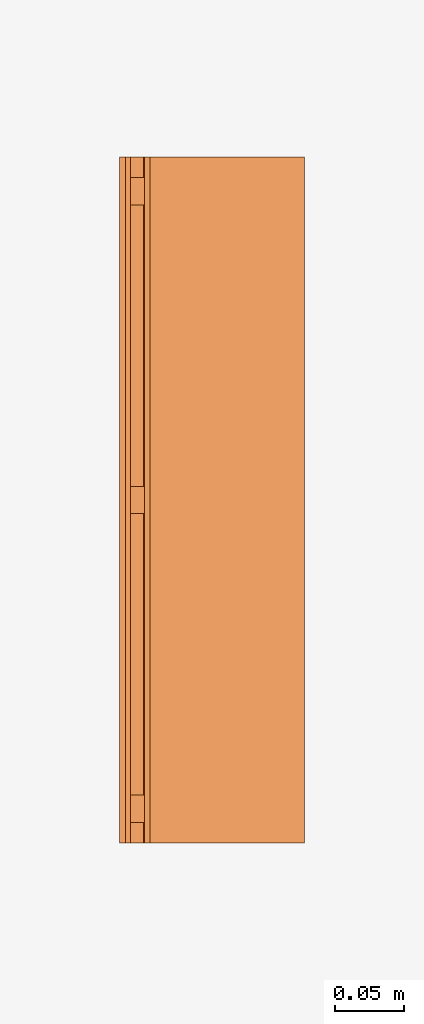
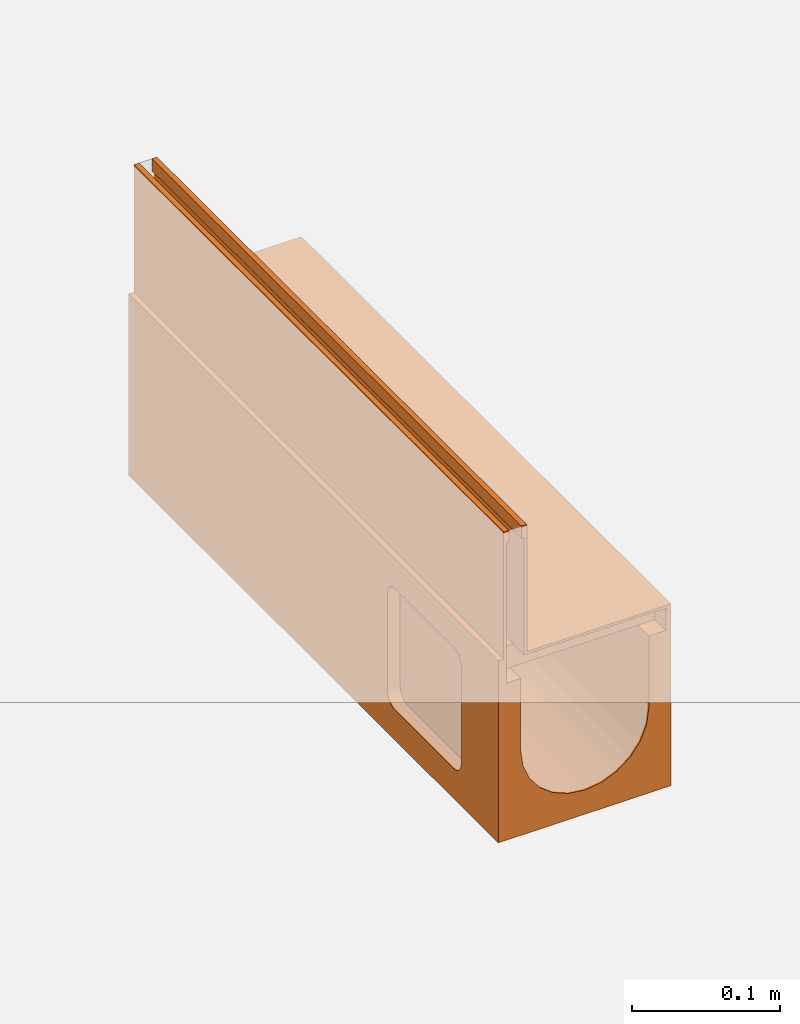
# One storey, part 2 of 2: 1 proxy.
"""IFC2X3 building model written with IfcOpenShell, lengths in millimetres."""

from ifc_helpers import new_model, entity, si_unit, converted_unit, direction, frame, origin, place, context, subcontext, project, spatial, faceted_brep, source, transform, mapped, material, material_list, element, save


model = new_model("IFC2X3")

# Units and contexts
model_context = context("Model", 3, precision=1e-06, world=origin(), true_north=direction((2.0, 6.12303176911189e-17, 1.0)))
context_of_model = context(None, 3, precision=1e-06, world=origin(), true_north=direction((2.0, 6.12303176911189e-17, 1.0)))
body_context = subcontext(model_context, "Body", "Model", "MODEL_VIEW")
ifc_project = project(units=[si_unit("LENGTHUNIT", "METRE", prefix="MILLI"), si_unit("AREAUNIT", "SQUARE_METRE", prefix="MILLI"), si_unit("VOLUMEUNIT", "CUBIC_METRE", prefix="MILLI"), converted_unit("PLANEANGLEUNIT", "DEGREE", entity("IfcRatioMeasure", 0.0174532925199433), si_unit("PLANEANGLEUNIT", "RADIAN"), dimensions=[0, 0, 0, 0, 0, 0, 0]), si_unit("TIMEUNIT", "SECOND")], contexts=[model_context, context_of_model])

# Site, building, storey
site_placement = place(None, origin())
site = spatial("IfcSite", under=ifc_project, at=site_placement, Name="Default", CompositionType="ELEMENT")
building_placement = place(site_placement, origin())
building = spatial("IfcBuilding", under=site, at=building_placement, CompositionType="ELEMENT")
storey_placement = place(building_placement, origin())
storey = spatial("IfcBuildingStorey", under=building, at=storey_placement, Name="Level 1", CompositionType="ELEMENT", Elevation=0.0)

# Proxy
ifc_material_1 = material(Name="Stainless Steel (F)")
ifc_material_2 = material(Name="Vienite® Synthetic Resin Concrete")
ifc_material_list = material_list([ifc_material_1, ifc_material_2])
shared_shape = source(origin(), body_context, "Body", "Brep", [
    faceted_brep([(63.249999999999, 15.0, -107.0), (63.249999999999, 17.0, -109.0), (63.249999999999, 33.0, -109.0), (63.249999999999, 35.0, -107.0), (63.249999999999, 17.0, -123.499999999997), (63.249999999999, 15.0, -125.499999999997), (63.249999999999, 33.0, -123.499999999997), (63.249999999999, 35.0, -125.499999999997), (-61.250000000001, 15.0, -125.499999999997), (-61.250000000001, 17.0, -123.499999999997), (-61.250000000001, 33.0, -123.499999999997), (-61.250000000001, 35.0, -125.499999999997), (-61.250000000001, 17.0, -109.0), (-61.250000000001, 15.0, -107.0), (-61.250000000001, 33.0, -109.0), (-61.250000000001, 35.0, -107.0)], [[[0, 1, 2, 3]], [[4, 1, 0, 5]], [[3, 2, 6, 7]], [[6, 4, 5, 7]], [[8, 9, 10, 11]], [[12, 9, 8, 13]], [[11, 10, 14, 15]], [[14, 12, 13, 15]], [[5, 0, 13, 8]], [[7, 5, 8, 11]], [[3, 7, 11, 15]], [[0, 3, 15, 13]], [[1, 4, 9, 12]], [[14, 2, 1, 12]], [[6, 2, 14, 10]], [[9, 4, 6, 10]]]),
    faceted_brep([(63.2499999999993, 240.0, -107.0), (63.2499999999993, 242.0, -109.0), (63.2499999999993, 258.0, -109.0), (63.2499999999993, 260.0, -107.0), (63.2499999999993, 242.0, -123.499999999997), (63.2499999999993, 240.0, -125.499999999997), (63.2499999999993, 258.0, -123.499999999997), (63.2499999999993, 260.0, -125.499999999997), (-61.2500000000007, 240.0, -125.499999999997), (-61.2500000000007, 242.0, -123.499999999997), (-61.2500000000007, 258.0, -123.499999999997), (-61.2500000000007, 260.0, -125.499999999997), (-61.2500000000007, 242.0, -109.0), (-61.2500000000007, 240.0, -107.0), (-61.2500000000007, 258.0, -109.0), (-61.2500000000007, 260.0, -107.0)], [[[0, 1, 2, 3]], [[4, 1, 0, 5]], [[3, 2, 6, 7]], [[6, 4, 5, 7]], [[8, 9, 10, 11]], [[12, 9, 8, 13]], [[11, 10, 14, 15]], [[14, 12, 13, 15]], [[5, 0, 13, 8]], [[7, 5, 8, 11]], [[3, 7, 11, 15]], [[0, 3, 15, 13]], [[1, 4, 9, 12]], [[2, 1, 12, 14]], [[6, 2, 14, 10]], [[4, 6, 10, 9]]]),
    faceted_brep([(63.2499999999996, 465.0, -107.0), (63.2499999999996, 467.0, -109.0), (63.2499999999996, 483.0, -109.0), (63.2499999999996, 485.0, -107.0), (63.2499999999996, 467.0, -123.499999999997), (63.2499999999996, 465.0, -125.499999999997), (63.2499999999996, 483.0, -123.499999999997), (63.2499999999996, 485.0, -125.499999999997), (-61.2500000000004, 465.0, -125.499999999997), (-61.2500000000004, 467.0, -123.499999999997), (-61.2500000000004, 483.0, -123.499999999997), (-61.2500000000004, 485.0, -125.499999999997), (-61.2500000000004, 467.0, -109.0), (-61.2500000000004, 465.0, -107.0), (-61.2500000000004, 483.0, -109.0), (-61.2500000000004, 485.0, -107.0)], [[[0, 1, 2, 3]], [[4, 1, 0, 5]], [[3, 2, 6, 7]], [[6, 4, 5, 7]], [[8, 9, 10, 11]], [[12, 9, 8, 13]], [[11, 10, 14, 15]], [[14, 12, 13, 15]], [[5, 0, 13, 8]], [[7, 5, 8, 11]], [[3, 7, 11, 15]], [[0, 3, 15, 13]], [[1, 4, 9, 12]], [[2, 1, 12, 14]], [[6, 2, 14, 10]], [[4, 6, 10, 9]]]),
    faceted_brep([(-47.2500000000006, 0.0, -10.0), (-47.2500000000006, 0.0, -107.0), (-45.2500000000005, 0.0, -105.0), (-45.2500000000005, 0.0, 0.0), (-49.2500000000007, 0.0, 0.0), (-49.2500000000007, 0.0, -10.0), (63.2499999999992, 0.0, -107.0), (63.2499999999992, 0.0, -105.0), (-45.2500000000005, 500.0, -105.0), (63.2499999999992, 500.0, -105.0), (63.2499999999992, 500.0, -107.0), (-47.2500000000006, 500.0, -107.0), (-47.2500000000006, 500.0, -10.0), (-45.2500000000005, 500.0, 0.0), (-49.2500000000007, 500.0, -10.0), (-49.2500000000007, 500.0, 0.0)], [[[0, 1, 2, 3]], [[4, 5, 0, 3]], [[6, 7, 2, 1]], [[8, 9, 10, 11]], [[12, 13, 8, 11]], [[12, 14, 15, 13]], [[12, 0, 5, 14]], [[1, 0, 12, 11]], [[6, 1, 11, 10]], [[9, 7, 6, 10]], [[8, 2, 7, 9]], [[3, 2, 8, 13]], [[4, 3, 13, 15]], [[5, 4, 15, 14]]]),
    faceted_brep([(-59.2500000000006, 500.0, 0.0), (-59.2500000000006, 500.0, -10.0), (-61.2500000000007, 500.0, -10.0), (-63.2500000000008, 500.0, 0.0), (-63.2500000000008, 500.0, -125.5), (-61.2500000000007, 500.0, -125.5), (-61.2500000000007, 0.0, -10.0), (-63.2500000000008, 0.0, 0.0), (-63.2500000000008, 0.0, -125.5), (-61.2500000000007, 0.0, -125.5), (-59.2500000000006, 0.0, 0.0), (-59.2500000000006, 0.0, -10.0)], [[[0, 1, 2, 3]], [[4, 3, 2, 5]], [[6, 7, 8, 9]], [[10, 7, 6, 11]], [[5, 9, 8, 4]], [[6, 9, 5, 2]], [[1, 11, 6, 2]], [[10, 11, 1, 0]], [[7, 10, 0, 3]], [[4, 8, 7, 3]]]),
    faceted_brep([(63.2499999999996, 500.0, -125.500000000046), (63.2499999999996, 500.0, -105.0), (67.4999999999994, 500.0, -105.0), (67.4999999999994, 500.0, -255.0), (50.0, 500.0, -185.0), (50.0, 500.0, -125.499999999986), (48.2962913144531, 500.0, -197.940952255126), (-67.5000000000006, 500.0, -105.0), (-63.2500000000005, 500.0, -105.0), (-63.2500000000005, 500.0, -125.500000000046), (-67.5000000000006, 500.0, -255.0), (-50.0, 500.0, -125.500000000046), (-50.0, 500.0, -185.0), (35.3553390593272, 500.0, -220.355339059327), (43.3012701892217, 500.0, -210.0), (25.0, 500.0, -228.301270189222), (0.0, 500.0, -235.0), (12.9409522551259, 500.0, -233.296291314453), (-43.3012701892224, 500.0, -210.0), (-35.3553390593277, 500.0, -220.355339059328), (-48.296291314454, 500.0, -197.940952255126), (-25.0, 500.0, -228.301270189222), (-12.9409522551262, 500.0, -233.296291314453), (67.4999999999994, 0.0, -255.0), (12.9409522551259, 0.0, -233.296291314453), (0.0, 0.0, -235.0), (25.0, 0.0, -228.301270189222), (35.3553390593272, 0.0, -220.355339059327), (43.3012701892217, 0.0, -210.0), (48.2962913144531, 0.0, -197.940952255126), (-12.9409522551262, 0.0, -233.296291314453), (-67.5000000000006, 0.0, -255.0), (-25.0, 0.0, -228.301270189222), (-35.3553390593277, 0.0, -220.355339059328), (-43.3012701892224, 0.0, -210.0), (-48.296291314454, 0.0, -197.940952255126), (50.0, 0.0, -185.0), (63.2499999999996, 0.0, -125.500000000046), (50.0, 0.0, -125.499999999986), (67.4999999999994, 0.0, -105.0), (63.2499999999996, 0.0, -105.0), (-50.0, 0.0, -185.0), (-50.0, 0.0, -125.500000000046), (-63.2500000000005, 0.0, -125.500000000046), (-63.2500000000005, 0.0, -105.0), (-67.5000000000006, 0.0, -105.0), (-67.5000000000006, 51.3397459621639, -135.0), (-67.5000000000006, 50.3407417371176, -137.411809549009), (-67.5000000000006, 52.9289321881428, -132.928932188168), (-67.5000000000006, 50.0, -140.0), (-67.5000000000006, 50.0, -220.0), (-67.5000000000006, 60.0, -130.0), (-67.5000000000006, 57.4118095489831, -130.340741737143), (-67.5000000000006, 55.0, -131.339745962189), (-67.5000000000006, 140.0, -130.0), (-67.5000000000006, 50.3407417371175, -222.588190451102), (-67.5000000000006, 51.3397459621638, -225.0), (-67.5000000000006, 52.9289321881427, -227.071067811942), (-67.5000000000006, 55.0, -228.660254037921), (-67.5000000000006, 57.4118095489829, -229.659258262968), (-67.5000000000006, 60.0, -230.0), (-67.5000000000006, 140.0, -230.0), (-67.5000000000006, 142.588190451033, -130.340741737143), (-67.5000000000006, 147.071067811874, -132.928932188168), (-67.5000000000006, 145.0, -131.339745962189), (-67.5000000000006, 148.660254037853, -135.0), (-67.5000000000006, 149.659258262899, -137.411809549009), (-67.5000000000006, 150.0, -140.0), (-67.5000000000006, 145.0, -228.660254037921), (-67.5000000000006, 147.071067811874, -227.071067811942), (-67.5000000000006, 142.588190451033, -229.659258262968), (-67.5000000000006, 149.659258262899, -222.588190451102), (-67.5000000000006, 150.0, -220.0), (-67.5000000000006, 148.660254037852, -225.0), (67.4999999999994, 51.3397459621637, -225.0), (67.4999999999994, 50.3407417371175, -222.588190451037), (67.4999999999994, 52.9289321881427, -227.071067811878), (67.4999999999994, 50.0, -220.0), (67.4999999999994, 50.0, -140.0), (67.4999999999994, 60.0, -230.0), (67.4999999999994, 57.4118095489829, -229.659258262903), (67.4999999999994, 55.0, -228.660254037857), (67.4999999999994, 140.0, -230.0), (67.4999999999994, 50.3407417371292, -137.411809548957), (67.4999999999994, 51.3397459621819, -135.0), (67.4999999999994, 52.9289321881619, -132.928932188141), (67.4999999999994, 55.0, -131.339745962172), (67.4999999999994, 57.4118095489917, -130.340741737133), (67.4999999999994, 60.0, -130.0), (67.4999999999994, 140.0, -130.0), (67.4999999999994, 142.588190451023, -229.659258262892), (67.4999999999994, 147.071067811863, -227.071067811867), (67.4999999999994, 145.0, -228.660254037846), (67.4999999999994, 148.660254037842, -225.0), (67.4999999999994, 149.659258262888, -222.588190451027), (67.4999999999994, 150.0, -220.0), (67.4999999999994, 145.0, -131.339745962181), (67.4999999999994, 147.071067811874, -132.92893218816), (67.4999999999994, 142.588190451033, -130.340741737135), (67.4999999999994, 149.659258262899, -137.411809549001), (67.4999999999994, 150.0, -140.0), (67.4999999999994, 148.660254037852, -135.0), (57.4999999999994, 149.659258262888, -222.588190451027), (57.4999999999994, 150.0, -220.0), (57.4999999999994, 140.0, -230.0), (57.4999999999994, 148.660254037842, -225.0), (57.4999999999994, 142.588190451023, -229.659258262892), (57.4999999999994, 145.0, -228.660254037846), (57.4999999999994, 147.071067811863, -227.071067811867), (57.4999999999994, 150.0, -140.0), (57.4999999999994, 149.659258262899, -137.411809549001), (57.4999999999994, 148.660254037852, -135.0), (57.4999999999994, 147.071067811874, -132.92893218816), (57.4999999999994, 145.0, -131.339745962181), (57.4999999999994, 140.0, -130.0), (57.4999999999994, 142.588190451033, -130.340741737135), (57.4999999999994, 60.0, -130.0), (57.4999999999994, 50.0, -220.0), (57.4999999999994, 55.0, -228.660254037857), (57.4999999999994, 57.4118095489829, -229.659258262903), (57.4999999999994, 60.0, -230.0), (57.4999999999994, 52.9289321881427, -227.071067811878), (57.4999999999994, 50.3407417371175, -222.588190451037), (57.4999999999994, 51.3397459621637, -225.0), (57.4999999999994, 57.411809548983, -130.340741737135), (57.4999999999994, 55.0, -131.339745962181), (57.4999999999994, 50.3407417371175, -137.411809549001), (57.4999999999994, 52.9289321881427, -132.92893218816), (57.4999999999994, 51.3397459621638, -135.0), (57.4999999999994, 50.0, -140.0), (-57.5000000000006, 55.0, -131.339745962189), (-57.5000000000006, 57.4118095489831, -130.340741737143), (-57.5000000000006, 60.0, -130.0), (-57.5000000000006, 50.0, -140.0), (-57.5000000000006, 50.3407417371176, -137.411809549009), (-57.5000000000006, 51.3397459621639, -135.0), (-57.5000000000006, 52.9289321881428, -132.928932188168), (-57.5000000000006, 150.0, -140.0), (-57.5000000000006, 140.0, -130.0), (-57.5000000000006, 148.660254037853, -135.0), (-57.5000000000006, 142.588190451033, -130.340741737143), (-57.5000000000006, 145.0, -131.339745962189), (-57.5000000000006, 147.071067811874, -132.928932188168), (-57.5000000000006, 149.659258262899, -137.411809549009), (-57.5000000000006, 150.0, -220.0), (-57.5000000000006, 50.0, -220.0), (-57.5000000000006, 51.3397459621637, -225.0), (-57.5000000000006, 50.3407417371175, -222.588190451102), (-57.5000000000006, 60.0, -230.0), (-57.5000000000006, 57.4118095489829, -229.659258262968), (-57.5000000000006, 55.0, -228.660254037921), (-57.5000000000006, 52.9289321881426, -227.071067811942), (-57.5000000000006, 140.0, -230.0), (-57.5000000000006, 149.659258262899, -222.588190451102), (-57.5000000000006, 148.660254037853, -225.0), (-57.5000000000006, 142.588190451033, -229.659258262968), (-57.5000000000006, 147.071067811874, -227.071067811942), (-57.5000000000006, 145.0, -228.660254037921)], [[[0, 1, 2, 3]], [[4, 5, 0, 3]], [[6, 4, 3]], [[7, 8, 9, 10]], [[9, 11, 12, 10]], [[13, 14, 3]], [[15, 13, 3]], [[16, 17, 3, 10]], [[3, 17, 15]], [[14, 6, 3]], [[18, 19, 10]], [[20, 18, 10]], [[21, 22, 10]], [[10, 22, 16]], [[21, 10, 19]], [[20, 10, 12]], [[23, 24, 25]], [[24, 23, 26]], [[27, 26, 23]], [[28, 27, 23]], [[23, 29, 28]], [[25, 30, 31, 23]], [[31, 30, 32]], [[33, 34, 31]], [[32, 33, 31]], [[31, 34, 35]], [[36, 29, 23, 37]], [[38, 36, 37]], [[39, 40, 37, 23]], [[41, 42, 43, 31]], [[43, 44, 45, 31]], [[31, 35, 41]], [[8, 44, 43, 9]], [[45, 44, 8, 7]], [[45, 46, 47]], [[46, 45, 48]], [[47, 49, 45]], [[45, 49, 50]], [[51, 52, 45]], [[53, 48, 45]], [[52, 53, 45]], [[54, 51, 45, 7]], [[50, 55, 31, 45]], [[31, 56, 57]], [[56, 31, 55]], [[57, 58, 31]], [[59, 60, 31]], [[58, 59, 31]], [[31, 60, 61]], [[62, 54, 7]], [[63, 64, 7]], [[62, 7, 64]], [[65, 7, 66]], [[7, 65, 63]], [[67, 66, 7, 10]], [[68, 69, 10]], [[61, 70, 10, 31]], [[68, 10, 70]], [[71, 72, 10]], [[73, 10, 69]], [[10, 73, 71]], [[72, 67, 10]], [[23, 31, 10, 3]], [[23, 74, 75]], [[74, 23, 76]], [[75, 77, 23]], [[23, 77, 78]], [[79, 80, 23]], [[81, 76, 23]], [[80, 81, 23]], [[82, 79, 23, 3]], [[78, 83, 39, 23]], [[39, 84, 85]], [[84, 39, 83]], [[85, 86, 39]], [[87, 88, 39]], [[86, 87, 39]], [[39, 88, 89]], [[90, 82, 3]], [[91, 92, 3]], [[90, 3, 92]], [[93, 3, 94]], [[3, 93, 91]], [[95, 94, 3, 2]], [[96, 97, 2]], [[89, 98, 2, 39]], [[96, 2, 98]], [[99, 100, 2]], [[101, 2, 97]], [[2, 101, 99]], [[100, 95, 2]], [[40, 39, 2, 1]], [[0, 37, 40, 1]], [[5, 38, 37, 0]], [[4, 36, 38, 5]], [[6, 29, 36, 4]], [[14, 28, 29, 6]], [[15, 26, 27, 13]], [[13, 27, 28, 14]], [[17, 24, 26, 15]], [[24, 17, 16, 25]], [[21, 32, 30, 22]], [[19, 33, 32, 21]], [[20, 35, 34, 18]], [[18, 34, 33, 19]], [[12, 41, 35, 20]], [[22, 30, 25, 16]], [[11, 42, 41, 12]], [[43, 42, 11, 9]], [[102, 103, 104, 105]], [[104, 106, 107, 105]], [[107, 108, 105]], [[109, 104, 103]], [[110, 111, 112, 113]], [[109, 110, 114, 104]], [[113, 115, 114, 110]], [[104, 114, 116, 117]], [[118, 119, 120, 121]], [[122, 123, 121, 120]], [[117, 122, 120, 104]], [[116, 124, 125, 126]], [[126, 125, 127, 128]], [[116, 126, 129, 117]], [[126, 83, 78, 129]], [[128, 84, 83, 126]], [[84, 128, 127, 85]], [[125, 86, 85, 127]], [[124, 87, 86, 125]], [[87, 124, 116, 88]], [[88, 116, 114, 89]], [[115, 98, 89, 114]], [[113, 96, 98, 115]], [[96, 113, 112, 97]], [[111, 101, 97, 112]], [[110, 99, 101, 111]], [[99, 110, 109, 100]], [[109, 103, 95, 100]], [[102, 94, 95, 103]], [[105, 93, 94, 102]], [[93, 105, 108, 91]], [[107, 92, 91, 108]], [[106, 90, 92, 107]], [[90, 106, 104, 82]], [[82, 104, 120, 79]], [[119, 80, 79, 120]], [[118, 81, 80, 119]], [[81, 118, 121, 76]], [[123, 74, 76, 121]], [[122, 75, 74, 123]], [[75, 122, 117, 77]], [[77, 117, 129, 78]], [[130, 131, 132, 133]], [[134, 130, 133]], [[134, 135, 136, 130]], [[137, 133, 132, 138]], [[139, 140, 141, 142]], [[143, 138, 140, 139]], [[143, 137, 138]], [[133, 137, 144, 145]], [[146, 147, 145, 148]], [[149, 150, 151, 148]], [[146, 148, 151]], [[152, 148, 145, 144]], [[144, 153, 154, 155]], [[155, 154, 156, 157]], [[152, 144, 155]], [[131, 52, 51, 132]], [[130, 53, 52, 131]], [[53, 130, 136, 48]], [[135, 46, 48, 136]], [[134, 47, 46, 135]], [[47, 134, 133, 49]], [[138, 132, 51, 54]], [[143, 66, 67, 137]], [[139, 65, 66, 143]], [[65, 139, 142, 63]], [[141, 64, 63, 142]], [[140, 62, 64, 141]], [[62, 140, 138, 54]], [[72, 144, 137, 67]], [[155, 70, 61, 152]], [[157, 68, 70, 155]], [[68, 157, 156, 69]], [[154, 73, 69, 156]], [[153, 71, 73, 154]], [[71, 153, 144, 72]], [[60, 148, 152, 61]], [[147, 55, 50, 145]], [[146, 56, 55, 147]], [[56, 146, 151, 57]], [[150, 58, 57, 151]], [[149, 59, 58, 150]], [[59, 149, 148, 60]], [[133, 145, 50, 49]]]),
])
proxy_placement = place(storey_placement, frame((0.0, -230.0, 0.0)))
element("IfcBuildingElementProxy", 1, at=proxy_placement, inside=storey, material=ifc_material_list, Name="Civil-Drainage-Channel-ACO-MultiDrain-M100DS-Brickslot-Channel-System:24050 - No 0.1J Constant Depth Channel - 500mm LG - Invert Depth 130mm:24050 - No 0.1J Constant Depth Channel - 500mm LG - Invert Depth 130mm", ObjectType="24050 - No 0.1J Constant Depth Channel - 500mm LG - Invert Depth 130mm", CompositionType="ELEMENT", context=body_context, shape_type="MappedRepresentation", body=[
    mapped(shared_shape, transform((0.0, 0.0, 0.0), scale=1.0)),
])

save(model, "model.ifc")
